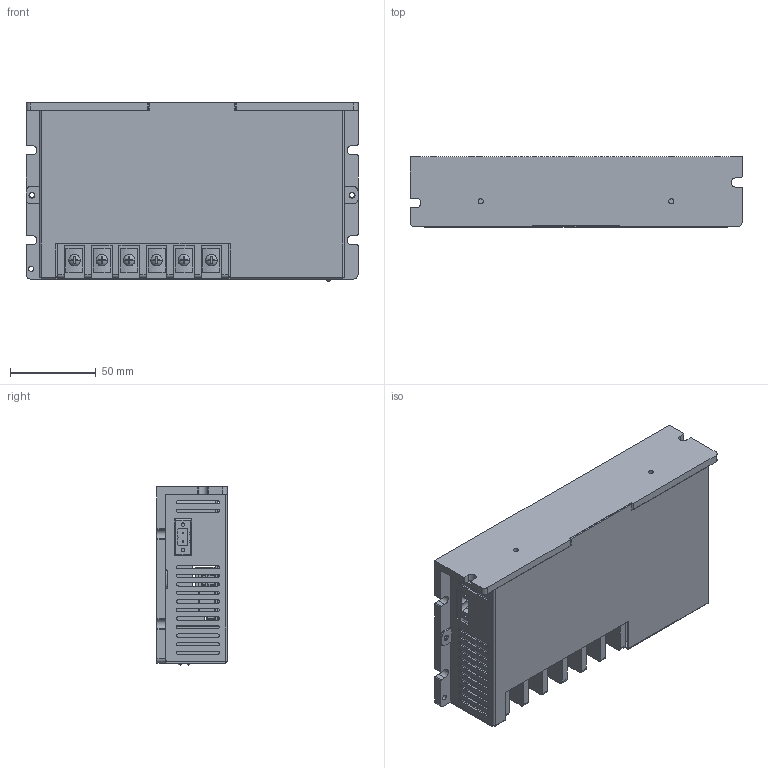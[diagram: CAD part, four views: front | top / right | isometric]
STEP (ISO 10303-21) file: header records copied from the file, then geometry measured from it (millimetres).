
FILE_DESCRIPTION((''),'2;1');
FILE_NAME('LD2-7060','2021-12-10T16:19:50',('chensf'),(''),'CREO PARAMETRIC BY PTC INC, 2019010','CREO PARAMETRIC BY PTC INC, 2019010','');
FILE_SCHEMA(('CONFIG_CONTROL_DESIGN','GEOMETRIC_VALIDATION_PROPERTIES_MIM'));
Products named in the file (1): LD2-7060
Bounding box: 194 x 41 x 104.3 mm (x, y, z)
Surface area: 193805.2 mm2 (no closed solid volume)
Topology: 0 solids, 34 shells, 3927 faces, 10482 edges, 6745 vertices
Faces by surface type: plane 3033, cylinder 740, cone 110, sphere 16, extrusion 16, torus 12
Entity records: 157975 total; most frequent: CARTESIAN_POINT 27760, ORIENTED_EDGE 20796, DIRECTION 18729, EDGE_CURVE 10398, VECTOR 8535, LINE 8519, VERTEX_POINT 6745, AXIS2_PLACEMENT_3D 5097
